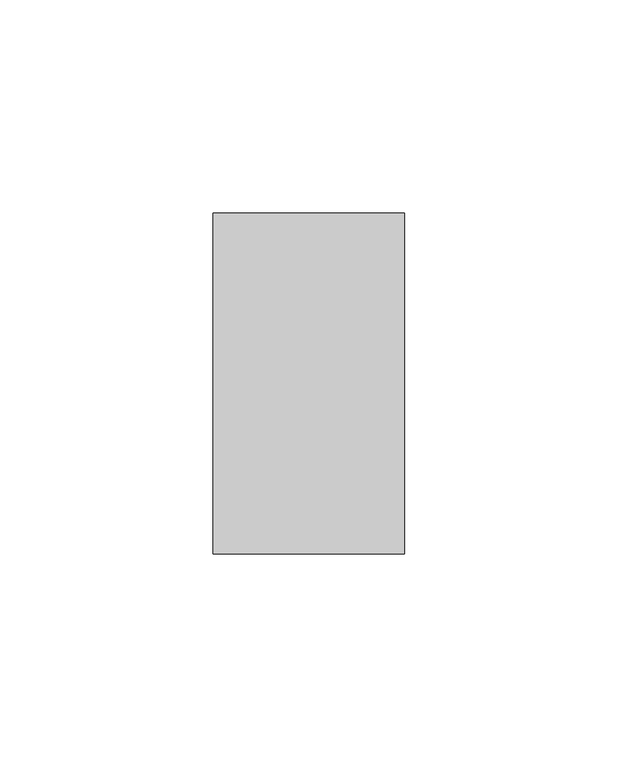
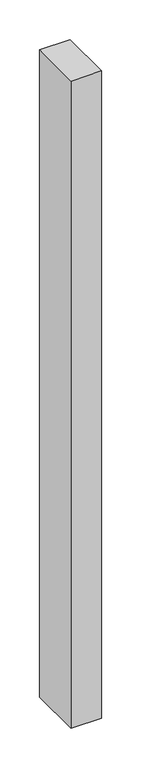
"""IFC4 building model written with IfcOpenShell, lengths in millimetres: member geometry, Obdélníková příčel : VERTI ELEMENT - vertikální."""

from ifc_helpers import new_model, si_unit, frame, origin, place, context, project, spatial, polyline, outline, extrude, source, transform, mapped, element, save


def member_4891f22e(model_context):
    return source(origin(), model_context, "Body", "SweptSolid", [
        extrude(outline(polyline([(0.0, 40.0), (0.0, -40.0), (-45.0, -40.0), (-45.0, 40.0), (0.0, 40.0)])), frame((0.0, 0.0, -1000.0), z_axis=(0.0, 0.0, 1.0), x_axis=(1.0, 0.0, 0.0)), (0.0, 0.0, 1.0), 1000.0),
    ])


if __name__ == "__main__":
    model = new_model("IFC4")
    model_context = context("Model", 3, world=origin())
    ifc_project = project(units=[si_unit("LENGTHUNIT", "METRE", prefix="MILLI")], contexts=[model_context])
    site = spatial("IfcSite", under=ifc_project)
    building = spatial("IfcBuilding", under=site)
    placement = place(None, origin())
    member_shape = member_4891f22e(model_context)
    element("IfcMember", 1, ObjectType="Obdélníková příčel : VERTI ELEMENT - vertikální", at=placement, inside=building, context=model_context, shape_type="MappedRepresentation", body=[
        mapped(member_shape, transform((0.0, 0.0, 0.0), x_axis=(1.0, 0.0, 0.0), y_axis=(0.0, 1.0, 0.0), z_axis=(0.0, 0.0, 1.0))),
    ])
    save(model, "model.ifc")
